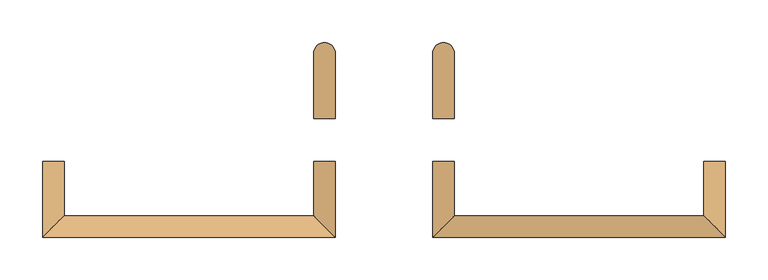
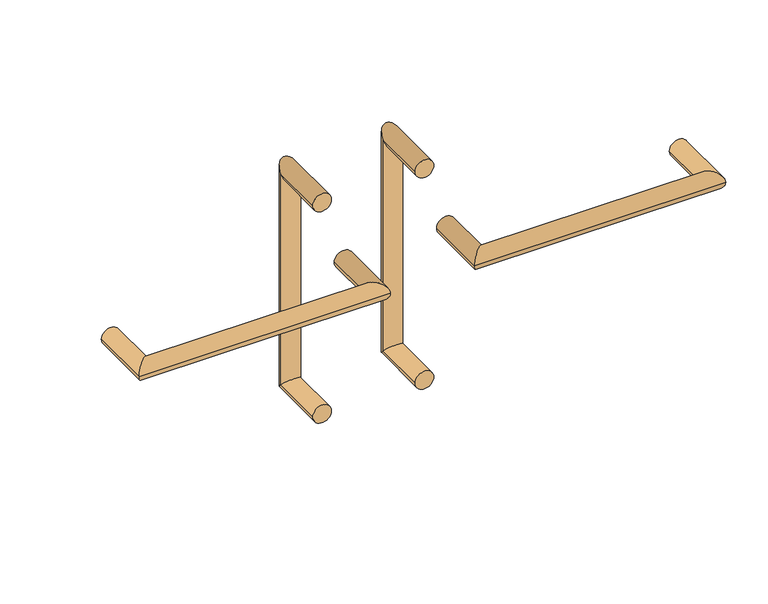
"""IFC4 building model written with IfcOpenShell, lengths in millimetres: door geometry, Planitar -Double Door : Planitar -Double Door."""

from ifc_helpers import new_model, si_unit, frame, origin, place, context, project, spatial, circle_curve, ellipse_curve, source, transform, mapped, element, save
from ifc_brep_helpers import plane_surface, cylinder_surface, advanced_brep


def door_a816a329(model_context):
    return source(origin(), model_context, "Body", "AdvancedBrep", [
        advanced_brep(
        [(-311.15, 50.8, 863.6), (-285.75, 50.8, 863.6), (-311.15, 127.0, 863.6), (-285.75, 127.0, 863.6), (-311.15, 127.0, 1168.4), (-285.75, 127.0, 1168.4), (-311.15, 50.8, 1168.4), (-285.75, 50.8, 1168.4)],
        [
            (0, 1, circle_curve(frame((-298.45, 50.8, 863.6), z_axis=(0.0, -1.0, 0.0), x_axis=(1.0, 0.0, 0.0)), 12.7)),
            (1, 0, circle_curve(frame((-298.45, 50.8, 863.6), z_axis=(0.0, -1.0, 0.0), x_axis=(1.0, 0.0, 0.0)), 12.7)),
            (0, 2),
            (2, 3, ellipse_curve(frame((-298.45, 127.0, 863.6), z_axis=(0.0, -0.7071067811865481, -0.7071067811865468), x_axis=(0.0, -0.7071067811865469, 0.707106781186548)), 17.9605122, 12.7)),
            (3, 1),
            (3, 2, ellipse_curve(frame((-298.45, 127.0, 863.6), z_axis=(0.0, -0.7071067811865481, -0.7071067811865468), x_axis=(0.0, -0.7071067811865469, 0.707106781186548)), 17.9605122, 12.7)),
            (2, 4),
            (4, 5, ellipse_curve(frame((-298.45, 127.0, 1168.4), z_axis=(0.0, 0.7071067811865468, -0.7071067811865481), x_axis=(0.0, -0.707106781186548, -0.7071067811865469)), 17.9605122, 12.7)),
            (5, 3),
            (5, 4, ellipse_curve(frame((-298.45, 127.0, 1168.4), z_axis=(0.0, 0.7071067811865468, -0.7071067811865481), x_axis=(0.0, -0.707106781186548, -0.7071067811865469)), 17.9605122, 12.7)),
            (6, 7, circle_curve(frame((-298.45, 50.8, 1168.4), z_axis=(0.0, -1.0, 0.0), x_axis=(1.0, 0.0, 0.0)), 12.7)),
            (7, 6, circle_curve(frame((-298.45, 50.8, 1168.4), z_axis=(0.0, -1.0, 0.0), x_axis=(1.0, 0.0, 0.0)), 12.7)),
            (4, 6),
            (7, 5),
        ],
        [
            plane_surface(frame((-298.45, 50.8, 863.6), z_axis=(0.0, -1.0, 0.0), x_axis=(0.0, 0.0, -1.0))),
            cylinder_surface(frame((-298.45, 50.8, 863.6), z_axis=(0.0, -1.0, 0.0), x_axis=(1.0, 0.0, 0.0)), 12.7),
            cylinder_surface(frame((-298.45, 127.0, 863.6), z_axis=(0.0, 0.0, -1.0), x_axis=(1.0, 0.0, 0.0)), 12.7),
            plane_surface(frame((-298.45, 50.8, 1168.4), z_axis=(0.0, -1.0, 0.0), x_axis=(0.0, 0.0, 1.0))),
            cylinder_surface(frame((-298.45, 127.0, 1168.4), z_axis=(0.0, 1.0, 0.0), x_axis=(1.0, 0.0, 0.0)), 12.7),
        ],
        [
            (0, [[1, 2]]),
            (1, [[-1, 3, 4, 5]]),
            (1, [[-2, -5, 6, -3]]),
            (2, [[-4, 7, 8, 9]]),
            (2, [[-6, -9, 10, -7]]),
            (3, [[11, 12]]),
            (4, [[-8, 13, -12, 14]]),
            (4, [[-10, -14, -11, -13]]),
        ],
    ),
        advanced_brep(
        [(-311.15, 0.0, 1117.6), (-285.75, 0.0, 1117.6), (-285.75, -88.9, 1117.6), (-311.15, -63.5, 1117.6), (-628.65, -88.9, 1117.6), (-603.25, -63.5, 1117.6), (-603.25, 0.0, 1117.6), (-628.65, 0.0, 1117.6)],
        [
            (0, 1, circle_curve(frame((-298.45, 0.0, 1117.6), z_axis=(0.0, 1.0, 0.0), x_axis=(1.0, 0.0, 0.0)), 12.7)),
            (1, 0, circle_curve(frame((-298.45, 0.0, 1117.6), z_axis=(0.0, 1.0, 0.0), x_axis=(1.0, 0.0, 0.0)), 12.7)),
            (1, 2),
            (2, 3, ellipse_curve(frame((-298.45, -76.2, 1117.6), z_axis=(0.707106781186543, 0.7071067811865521, 0.0), x_axis=(-0.7071067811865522, 0.7071067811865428, 0.0)), 17.9605122, 12.7)),
            (3, 0),
            (3, 2, ellipse_curve(frame((-298.45, -76.2, 1117.6), z_axis=(0.707106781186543, 0.7071067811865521, 0.0), x_axis=(-0.7071067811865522, 0.7071067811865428, 0.0)), 17.9605122, 12.7)),
            (2, 4),
            (4, 5, ellipse_curve(frame((-615.95, -76.2, 1117.6), z_axis=(0.7071067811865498, -0.7071067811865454, 0.0), x_axis=(0.7071067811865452, 0.7071067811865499, 0.0)), 17.9605122, 12.7)),
            (5, 3),
            (5, 4, ellipse_curve(frame((-615.95, -76.2, 1117.6), z_axis=(0.7071067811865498, -0.7071067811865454, 0.0), x_axis=(0.7071067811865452, 0.7071067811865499, 0.0)), 17.9605122, 12.7)),
            (6, 7, circle_curve(frame((-615.95, 0.0, 1117.6), z_axis=(0.0, 1.0, 0.0), x_axis=(-1.0, 0.0, 0.0)), 12.7)),
            (7, 6, circle_curve(frame((-615.95, 0.0, 1117.6), z_axis=(0.0, 1.0, 0.0), x_axis=(-1.0, 0.0, 0.0)), 12.7)),
            (4, 7),
            (6, 5),
        ],
        [
            plane_surface(frame((-298.45, 0.0, 1117.6), z_axis=(0.0, 1.0, 0.0), x_axis=(0.0, 0.0, 1.0))),
            cylinder_surface(frame((-298.45, 0.0, 1117.6), z_axis=(0.0, 1.0, 0.0), x_axis=(1.0, 0.0, 0.0)), 12.7),
            cylinder_surface(frame((-298.45, -76.2, 1117.6), z_axis=(1.0, 0.0, 0.0), x_axis=(0.0, -1.0, 0.0)), 12.7),
            plane_surface(frame((-615.95, 0.0, 1117.6), z_axis=(0.0, 1.0, 0.0), x_axis=(0.0, 0.0, 1.0))),
            cylinder_surface(frame((-615.95, -76.2, 1117.6), z_axis=(0.0, -1.0, 0.0), x_axis=(-1.0, 0.0, 0.0)), 12.7),
        ],
        [
            (0, [[1, 2]]),
            (1, [[-2, 3, 4, 5]]),
            (1, [[-1, -5, 6, -3]]),
            (2, [[-4, 7, 8, 9]]),
            (2, [[-6, -9, 10, -7]]),
            (3, [[11, 12]]),
            (4, [[-8, 13, -11, 14]]),
            (4, [[-10, -14, -12, -13]]),
        ],
    ),
        advanced_brep(
        [(-171.45, 0.0, 1117.6), (-146.05, 0.0, 1117.6), (-171.45, -88.9, 1117.6), (-146.05, -63.5, 1117.6), (171.45, -88.9, 1117.6), (146.05, -63.5, 1117.6), (171.45, 0.0, 1117.6), (146.05, 0.0, 1117.6)],
        [
            (0, 1, circle_curve(frame((-158.75, 0.0, 1117.6), z_axis=(0.0, 1.0, 0.0), x_axis=(1.0, 0.0, 0.0)), 12.7)),
            (1, 0, circle_curve(frame((-158.75, 0.0, 1117.6), z_axis=(0.0, 1.0, 0.0), x_axis=(1.0, 0.0, 0.0)), 12.7)),
            (0, 2),
            (2, 3, ellipse_curve(frame((-158.75, -76.2, 1117.6), z_axis=(-0.707106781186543, 0.7071067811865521, 0.0), x_axis=(0.7071067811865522, 0.7071067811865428, 0.0)), 17.9605122, 12.7)),
            (3, 1),
            (3, 2, ellipse_curve(frame((-158.75, -76.2, 1117.6), z_axis=(-0.707106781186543, 0.7071067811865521, 0.0), x_axis=(0.7071067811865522, 0.7071067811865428, 0.0)), 17.9605122, 12.7)),
            (2, 4),
            (4, 5, ellipse_curve(frame((158.75, -76.2, 1117.6), z_axis=(-0.7071067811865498, -0.7071067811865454, 0.0), x_axis=(-0.7071067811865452, 0.7071067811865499, 0.0)), 17.9605122, 12.7)),
            (5, 3),
            (5, 4, ellipse_curve(frame((158.75, -76.2, 1117.6), z_axis=(-0.7071067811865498, -0.7071067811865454, 0.0), x_axis=(-0.7071067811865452, 0.7071067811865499, 0.0)), 17.9605122, 12.7)),
            (6, 7, circle_curve(frame((158.75, 0.0, 1117.6), z_axis=(0.0, 1.0, 0.0), x_axis=(-1.0, 0.0, 0.0)), 12.7)),
            (7, 6, circle_curve(frame((158.75, 0.0, 1117.6), z_axis=(0.0, 1.0, 0.0), x_axis=(-1.0, 0.0, 0.0)), 12.7)),
            (4, 6),
            (7, 5),
        ],
        [
            plane_surface(frame((-158.75, 0.0, 1117.6), z_axis=(0.0, 1.0, 0.0), x_axis=(0.0, 0.0, 1.0))),
            cylinder_surface(frame((-158.75, 0.0, 1117.6), z_axis=(0.0, 1.0, 0.0), x_axis=(1.0, 0.0, 0.0)), 12.7),
            cylinder_surface(frame((-158.75, -76.2, 1117.6), z_axis=(-1.0, 0.0, 0.0), x_axis=(0.0, 1.0, 0.0)), 12.7),
            plane_surface(frame((158.75, 0.0, 1117.6), z_axis=(0.0, 1.0, 0.0), x_axis=(0.0, 0.0, 1.0))),
            cylinder_surface(frame((158.75, -76.2, 1117.6), z_axis=(0.0, -1.0, 0.0), x_axis=(-1.0, 0.0, 0.0)), 12.7),
        ],
        [
            (0, [[1, 2]]),
            (1, [[-1, 3, 4, 5]]),
            (1, [[-2, -5, 6, -3]]),
            (2, [[-4, 7, 8, 9]]),
            (2, [[-6, -9, 10, -7]]),
            (3, [[11, 12]]),
            (4, [[-8, 13, -12, 14]]),
            (4, [[-10, -14, -11, -13]]),
        ],
    ),
        advanced_brep(
        [(-171.45, 50.8, 863.6), (-146.05, 50.8, 863.6), (-171.45, 127.0, 863.6), (-146.05, 127.0, 863.6), (-171.45, 127.0, 1168.4), (-146.05, 127.0, 1168.4), (-171.45, 50.8, 1168.4), (-146.05, 50.8, 1168.4)],
        [
            (0, 1, circle_curve(frame((-158.75, 50.8, 863.6), z_axis=(0.0, -1.0, 0.0), x_axis=(1.0, 0.0, 0.0)), 12.7)),
            (1, 0, circle_curve(frame((-158.75, 50.8, 863.6), z_axis=(0.0, -1.0, 0.0), x_axis=(1.0, 0.0, 0.0)), 12.7)),
            (0, 2),
            (2, 3, ellipse_curve(frame((-158.75, 127.0, 863.6), z_axis=(0.0, -0.7071067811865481, -0.7071067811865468), x_axis=(0.0, -0.7071067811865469, 0.707106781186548)), 17.9605122, 12.7)),
            (3, 1),
            (3, 2, ellipse_curve(frame((-158.75, 127.0, 863.6), z_axis=(0.0, -0.7071067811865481, -0.7071067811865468), x_axis=(0.0, -0.7071067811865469, 0.707106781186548)), 17.9605122, 12.7)),
            (2, 4),
            (4, 5, ellipse_curve(frame((-158.75, 127.0, 1168.4), z_axis=(0.0, 0.7071067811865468, -0.7071067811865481), x_axis=(0.0, -0.707106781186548, -0.7071067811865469)), 17.9605122, 12.7)),
            (5, 3),
            (5, 4, ellipse_curve(frame((-158.75, 127.0, 1168.4), z_axis=(0.0, 0.7071067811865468, -0.7071067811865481), x_axis=(0.0, -0.707106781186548, -0.7071067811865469)), 17.9605122, 12.7)),
            (6, 7, circle_curve(frame((-158.75, 50.8, 1168.4), z_axis=(0.0, -1.0, 0.0), x_axis=(1.0, 0.0, 0.0)), 12.7)),
            (7, 6, circle_curve(frame((-158.75, 50.8, 1168.4), z_axis=(0.0, -1.0, 0.0), x_axis=(1.0, 0.0, 0.0)), 12.7)),
            (4, 6),
            (7, 5),
        ],
        [
            plane_surface(frame((-158.75, 50.8, 863.6), z_axis=(0.0, -1.0, 0.0), x_axis=(0.0, 0.0, -1.0))),
            cylinder_surface(frame((-158.75, 50.8, 863.6), z_axis=(0.0, -1.0, 0.0), x_axis=(1.0, 0.0, 0.0)), 12.7),
            cylinder_surface(frame((-158.75, 127.0, 863.6), z_axis=(0.0, 0.0, -1.0), x_axis=(1.0, 0.0, 0.0)), 12.7),
            plane_surface(frame((-158.75, 50.8, 1168.4), z_axis=(0.0, -1.0, 0.0), x_axis=(0.0, 0.0, 1.0))),
            cylinder_surface(frame((-158.75, 127.0, 1168.4), z_axis=(0.0, 1.0, 0.0), x_axis=(1.0, 0.0, 0.0)), 12.7),
        ],
        [
            (0, [[1, 2]]),
            (1, [[-1, 3, 4, 5]]),
            (1, [[-2, -5, 6, -3]]),
            (2, [[-4, 7, 8, 9]]),
            (2, [[-6, -9, 10, -7]]),
            (3, [[11, 12]]),
            (4, [[-8, 13, -12, 14]]),
            (4, [[-10, -14, -11, -13]]),
        ],
    ),
    ])


if __name__ == "__main__":
    model = new_model("IFC4")
    model_context = context("Model", 3, world=origin())
    ifc_project = project(units=[si_unit("LENGTHUNIT", "METRE", prefix="MILLI")], contexts=[model_context])
    site = spatial("IfcSite", under=ifc_project)
    building = spatial("IfcBuilding", under=site)
    placement = place(None, origin())
    door_shape = door_a816a329(model_context)
    element("IfcDoor", 1, ObjectType="Planitar -Double Door : Planitar -Double Door", at=placement, inside=building, context=model_context, shape_type="MappedRepresentation", body=[
        mapped(door_shape, transform((0.0, 0.0, 0.0), x_axis=(1.0, 0.0, 0.0), y_axis=(0.0, 1.0, 0.0), z_axis=(0.0, 0.0, 1.0))),
    ])
    save(model, "model.ifc")
